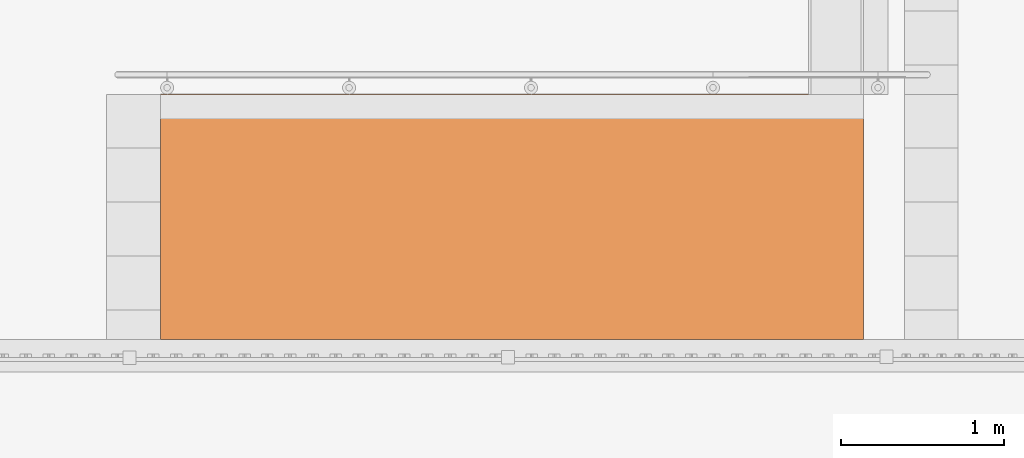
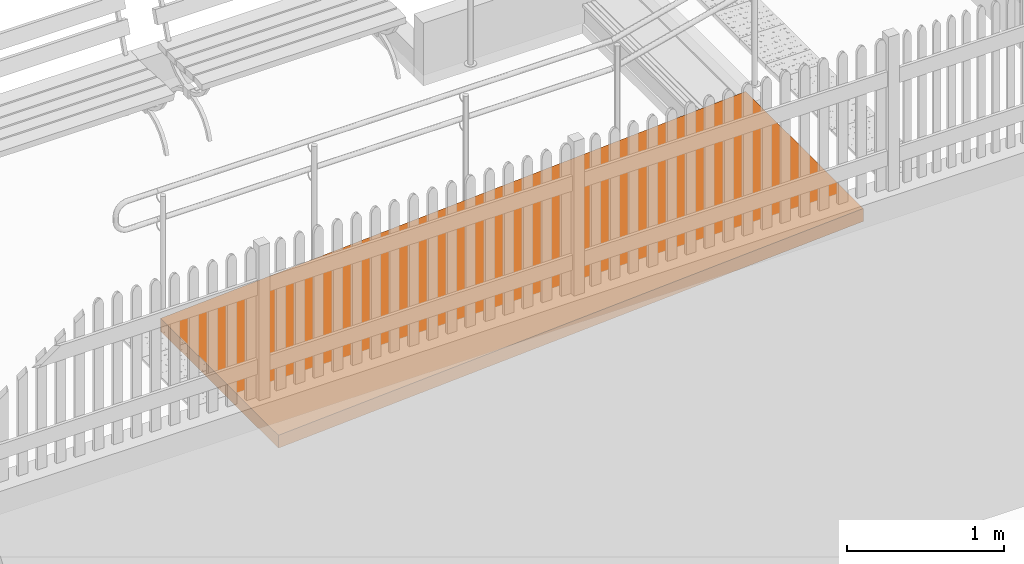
# One storey, part 209 of 237: 1 proxy.
"""IFC2X3 building model written with IfcOpenShell, lengths in millimetres."""

from ifc_helpers import new_model, entity, si_unit, converted_unit, derived_unit, money_unit, direction, frame, origin_with_axes, place, context, subcontext, project, spatial, faceted_brep, material, type_object, element, save


model = new_model("IFC2X3")

# Units and contexts
model_context = context("Model", 3, precision=0.01, world=origin_with_axes(), true_north=direction((0.0, 1.0)))
body_context = subcontext(model_context, "Body", "Model", "MODEL_VIEW")
ifc_project = project(units=[si_unit("LENGTHUNIT", "METRE", prefix="MILLI"), si_unit("AREAUNIT", "SQUARE_METRE"), si_unit("VOLUMEUNIT", "CUBIC_METRE"), converted_unit("PLANEANGLEUNIT", "DEGREE", entity("IfcPlaneAngleMeasure", 0.0174532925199), si_unit("PLANEANGLEUNIT", "RADIAN"), dimensions=[0, 0, 0, 0, 0, 0, 0]), money_unit("USD"), converted_unit("TIMEUNIT", "Year", entity("IfcTimeMeasure", 31556926.0), si_unit("TIMEUNIT", "SECOND"), dimensions=[0, 0, 1, 0, 0, 0, 0]), si_unit("MASSUNIT", "GRAM", prefix="KILO"), si_unit("THERMODYNAMICTEMPERATUREUNIT", "DEGREE_CELSIUS"), si_unit("LUMINOUSINTENSITYUNIT", "LUMEN"), si_unit("ENERGYUNIT", "JOULE", prefix="MEGA"), derived_unit("THERMALCONDUCTANCEUNIT", [(si_unit("POWERUNIT", "WATT"), 1), (si_unit("LENGTHUNIT", "METRE"), -1), (si_unit("THERMODYNAMICTEMPERATUREUNIT", "KELVIN"), -1)]), derived_unit("SPECIFICHEATCAPACITYUNIT", [(si_unit("ENERGYUNIT", "JOULE"), 1), (si_unit("MASSUNIT", "GRAM", prefix="KILO"), -1), (si_unit("THERMODYNAMICTEMPERATUREUNIT", "KELVIN"), -1)]), derived_unit("MASSDENSITYUNIT", [(si_unit("MASSUNIT", "GRAM", prefix="KILO"), 1), (si_unit("VOLUMEUNIT", "CUBIC_METRE"), -1)])], contexts=[model_context])

# Site, building, storey
site_placement = place(None, origin_with_axes())
site = spatial("IfcSite", under=ifc_project, at=site_placement, Name="Local", CompositionType="ELEMENT")
building_placement = place(site_placement, origin_with_axes())
building = spatial("IfcBuilding", under=site, at=building_placement, Name="Construção", CompositionType="ELEMENT")
storey_placement = place(building_placement, origin_with_axes())
storey = spatial("IfcBuildingStorey", under=building, at=storey_placement, Name="Pavimento Térreo", CompositionType="ELEMENT", Elevation=0.0)

# Proxy
ifc_material = material(Name="Concreto - Estrutural")
building_element_proxy_type = type_object("IfcBuildingElementProxyType", Name="Rampa Direta 25", PredefinedType="NOTDEFINED")
proxy_placement = place(storey_placement, frame((44762.4440926, 24406.451638, -1615.10819655), z_axis=(0.0, 0.0, 1.0), x_axis=(1.0, 0.0, 0.0)))
element("IfcBuildingElementProxy", 1, at=proxy_placement, inside=storey, type_object=building_element_proxy_type, material=ifc_material, Name="Objeto-0001", context=body_context, shape_type="Brep", body=[
    faceted_brep([(0.0, 750.0, -100.179838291), (0.0, 750.0, 0.0), (4300.0, 750.0, 258.0), (4300.0, 750.0, 157.820161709), (0.0, -750.0, -100.179838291), (0.0, -750.0, 0.0), (4300.0, -750.0, 258.0), (4300.0, -750.0, 157.820161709)], [[[0, 1, 2, 3]], [[0, 4, 5, 1]], [[1, 5, 6, 2]], [[3, 2, 6, 7]], [[4, 0, 3, 7]], [[5, 4, 7, 6]]]),
])

save(model, "model.ifc")
